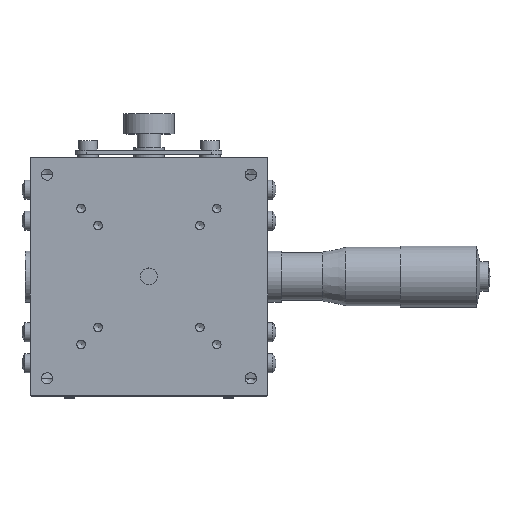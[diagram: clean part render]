
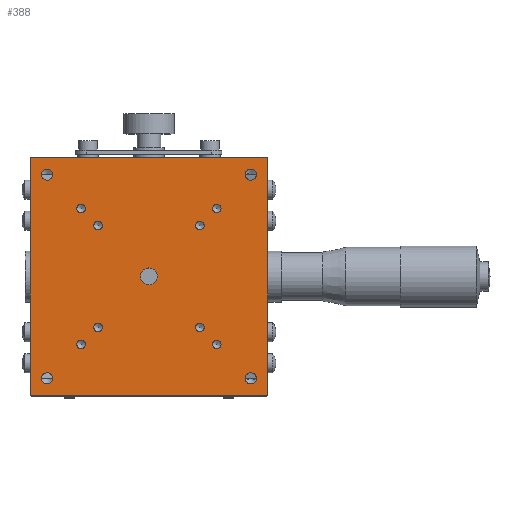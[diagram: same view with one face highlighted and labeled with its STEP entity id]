
A CAD part, top view. The second image highlights one B-rep face of the part: STEP entity #388.
In plain terms, the highlighted planar face has unit normal (0, 0, 1).
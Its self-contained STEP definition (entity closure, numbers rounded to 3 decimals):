
#388 = ADVANCED_FACE( '', ( #1020, #1021, #1022, #1023, #1024, #1025, #1026, #1027, #1028, #1029, #1030, #1031, #1032, #1033 ), #1034, .T. );
#1020 = FACE_BOUND( '', #2037, .T. );
#1021 = FACE_BOUND( '', #2038, .T. );
#1022 = FACE_BOUND( '', #2039, .T. );
#1023 = FACE_BOUND( '', #2040, .T. );
#1024 = FACE_BOUND( '', #2041, .T. );
#1025 = FACE_BOUND( '', #2042, .T. );
#1026 = FACE_BOUND( '', #2043, .T. );
#1027 = FACE_BOUND( '', #2044, .T. );
#1028 = FACE_BOUND( '', #2045, .T. );
#1029 = FACE_BOUND( '', #2046, .T. );
#1030 = FACE_BOUND( '', #2047, .T. );
#1031 = FACE_BOUND( '', #2048, .T. );
#1032 = FACE_BOUND( '', #2049, .T. );
#1033 = FACE_OUTER_BOUND( '', #2050, .T. );
#1034 = PLANE( '', #2051 );
#2037 = EDGE_LOOP( '', ( #3167 ) );
#2038 = EDGE_LOOP( '', ( #3168 ) );
#2039 = EDGE_LOOP( '', ( #3169 ) );
#2040 = EDGE_LOOP( '', ( #3170 ) );
#2041 = EDGE_LOOP( '', ( #3171 ) );
#2042 = EDGE_LOOP( '', ( #3172 ) );
#2043 = EDGE_LOOP( '', ( #3173 ) );
#2044 = EDGE_LOOP( '', ( #3174 ) );
#2045 = EDGE_LOOP( '', ( #3175 ) );
#2046 = EDGE_LOOP( '', ( #3176 ) );
#2047 = EDGE_LOOP( '', ( #3177 ) );
#2048 = EDGE_LOOP( '', ( #3178 ) );
#2049 = EDGE_LOOP( '', ( #3179 ) );
#2050 = EDGE_LOOP( '', ( #3180, #3181, #3182, #3183 ) );
#2051 = AXIS2_PLACEMENT_3D( '', #3184, #3185, #3186 );
#3167 = ORIENTED_EDGE( '', *, *, #5229, .T. );
#3168 = ORIENTED_EDGE( '', *, *, #5230, .T. );
#3169 = ORIENTED_EDGE( '', *, *, #5231, .T. );
#3170 = ORIENTED_EDGE( '', *, *, #5232, .T. );
#3171 = ORIENTED_EDGE( '', *, *, #5233, .T. );
#3172 = ORIENTED_EDGE( '', *, *, #5234, .T. );
#3173 = ORIENTED_EDGE( '', *, *, #5104, .T. );
#3174 = ORIENTED_EDGE( '', *, *, #5235, .T. );
#3175 = ORIENTED_EDGE( '', *, *, #5236, .T. );
#3176 = ORIENTED_EDGE( '', *, *, #5237, .T. );
#3177 = ORIENTED_EDGE( '', *, *, #5238, .T. );
#3178 = ORIENTED_EDGE( '', *, *, #5239, .T. );
#3179 = ORIENTED_EDGE( '', *, *, #5240, .T. );
#3180 = ORIENTED_EDGE( '', *, *, #5241, .F. );
#3181 = ORIENTED_EDGE( '', *, *, #5242, .F. );
#3182 = ORIENTED_EDGE( '', *, *, #5173, .F. );
#3183 = ORIENTED_EDGE( '', *, *, #5243, .F. );
#3184 = CARTESIAN_POINT( '', ( 0., 0., 16.5 ) );
#3185 = DIRECTION( '', ( 0., 0., 1. ) );
#3186 = DIRECTION( '', ( 0., -1., 0. ) );
#5104 = EDGE_CURVE( '', #5936, #5936, #5937, .T. );
#5173 = EDGE_CURVE( '', #6057, #6059, #6060, .T. );
#5229 = EDGE_CURVE( '', #6157, #6157, #6158, .T. );
#5230 = EDGE_CURVE( '', #6159, #6159, #6160, .T. );
#5231 = EDGE_CURVE( '', #6161, #6161, #6162, .T. );
#5232 = EDGE_CURVE( '', #6163, #6163, #6164, .T. );
#5233 = EDGE_CURVE( '', #6165, #6165, #6166, .T. );
#5234 = EDGE_CURVE( '', #6167, #6167, #6168, .T. );
#5235 = EDGE_CURVE( '', #6169, #6169, #6170, .T. );
#5236 = EDGE_CURVE( '', #6171, #6171, #6172, .T. );
#5237 = EDGE_CURVE( '', #6173, #6173, #6174, .T. );
#5238 = EDGE_CURVE( '', #6175, #6175, #6176, .T. );
#5239 = EDGE_CURVE( '', #6177, #6177, #6178, .T. );
#5240 = EDGE_CURVE( '', #6179, #6179, #6180, .T. );
#5241 = EDGE_CURVE( '', #6181, #6182, #6183, .T. );
#5242 = EDGE_CURVE( '', #6059, #6181, #6184, .T. );
#5243 = EDGE_CURVE( '', #6182, #6057, #6185, .T. );
#5936 = VERTEX_POINT( '', #7199 );
#5937 = CIRCLE( '', #7200, 1.25 );
#6057 = VERTEX_POINT( '', #7464 );
#6059 = VERTEX_POINT( '', #7467 );
#6060 = LINE( '', #7468, #7469 );
#6157 = VERTEX_POINT( '', #7619 );
#6158 = CIRCLE( '', #7620, 1.25 );
#6159 = VERTEX_POINT( '', #7621 );
#6160 = CIRCLE( '', #7622, 1.25 );
#6161 = VERTEX_POINT( '', #7623 );
#6162 = CIRCLE( '', #7624, 1.25 );
#6163 = VERTEX_POINT( '', #7625 );
#6164 = CIRCLE( '', #7626, 1.25 );
#6165 = VERTEX_POINT( '', #7627 );
#6166 = CIRCLE( '', #7628, 1.25 );
#6167 = VERTEX_POINT( '', #7629 );
#6168 = CIRCLE( '', #7630, 1.25 );
#6169 = VERTEX_POINT( '', #7631 );
#6170 = CIRCLE( '', #7632, 1.25 );
#6171 = VERTEX_POINT( '', #7633 );
#6172 = CIRCLE( '', #7634, 2.5 );
#6173 = VERTEX_POINT( '', #7635 );
#6174 = CIRCLE( '', #7636, 1.65 );
#6175 = VERTEX_POINT( '', #7637 );
#6176 = CIRCLE( '', #7638, 1.65 );
#6177 = VERTEX_POINT( '', #7639 );
#6178 = CIRCLE( '', #7640, 1.65 );
#6179 = VERTEX_POINT( '', #7641 );
#6180 = CIRCLE( '', #7642, 1.65 );
#6181 = VERTEX_POINT( '', #7643 );
#6182 = VERTEX_POINT( '', #7644 );
#6183 = LINE( '', #7645, #7646 );
#6184 = LINE( '', #7647, #7648 );
#6185 = LINE( '', #7649, #7650 );
#7199 = CARTESIAN_POINT( '', ( 20., -21.25, 16.5 ) );
#7200 = AXIS2_PLACEMENT_3D( '', #9147, #9148, #9149 );
#7464 = CARTESIAN_POINT( '', ( 35., 35., 16.5 ) );
#7467 = CARTESIAN_POINT( '', ( 35., -35., 16.5 ) );
#7468 = CARTESIAN_POINT( '', ( 35., 0., 16.5 ) );
#7469 = VECTOR( '', #9244, 1000. );
#7619 = CARTESIAN_POINT( '', ( 15., -16.25, 16.5 ) );
#7620 = AXIS2_PLACEMENT_3D( '', #9322, #9323, #9324 );
#7621 = CARTESIAN_POINT( '', ( 15., 13.75, 16.5 ) );
#7622 = AXIS2_PLACEMENT_3D( '', #9325, #9326, #9327 );
#7623 = CARTESIAN_POINT( '', ( -15., 13.75, 16.5 ) );
#7624 = AXIS2_PLACEMENT_3D( '', #9328, #9329, #9330 );
#7625 = CARTESIAN_POINT( '', ( -15., -16.25, 16.5 ) );
#7626 = AXIS2_PLACEMENT_3D( '', #9331, #9332, #9333 );
#7627 = CARTESIAN_POINT( '', ( -20., 18.75, 16.5 ) );
#7628 = AXIS2_PLACEMENT_3D( '', #9334, #9335, #9336 );
#7629 = CARTESIAN_POINT( '', ( 20., 18.75, 16.5 ) );
#7630 = AXIS2_PLACEMENT_3D( '', #9337, #9338, #9339 );
#7631 = CARTESIAN_POINT( '', ( -20., -21.25, 16.5 ) );
#7632 = AXIS2_PLACEMENT_3D( '', #9340, #9341, #9342 );
#7633 = CARTESIAN_POINT( '', ( 0., -2.5, 16.5 ) );
#7634 = AXIS2_PLACEMENT_3D( '', #9343, #9344, #9345 );
#7635 = CARTESIAN_POINT( '', ( -30., 28.35, 16.5 ) );
#7636 = AXIS2_PLACEMENT_3D( '', #9346, #9347, #9348 );
#7637 = CARTESIAN_POINT( '', ( 30., 28.35, 16.5 ) );
#7638 = AXIS2_PLACEMENT_3D( '', #9349, #9350, #9351 );
#7639 = CARTESIAN_POINT( '', ( 30., -31.65, 16.5 ) );
#7640 = AXIS2_PLACEMENT_3D( '', #9352, #9353, #9354 );
#7641 = CARTESIAN_POINT( '', ( -30., -31.65, 16.5 ) );
#7642 = AXIS2_PLACEMENT_3D( '', #9355, #9356, #9357 );
#7643 = CARTESIAN_POINT( '', ( -35., -35., 16.5 ) );
#7644 = CARTESIAN_POINT( '', ( -35., 35., 16.5 ) );
#7645 = CARTESIAN_POINT( '', ( -35., 0., 16.5 ) );
#7646 = VECTOR( '', #9358, 1000. );
#7647 = CARTESIAN_POINT( '', ( 0., -35., 16.5 ) );
#7648 = VECTOR( '', #9359, 1000. );
#7649 = CARTESIAN_POINT( '', ( 0., 35., 16.5 ) );
#7650 = VECTOR( '', #9360, 1000. );
#9147 = CARTESIAN_POINT( '', ( 20., -20., 16.5 ) );
#9148 = DIRECTION( '', ( 0., 0., -1. ) );
#9149 = DIRECTION( '', ( 0., -1., 0. ) );
#9244 = DIRECTION( '', ( 0., -1., 0. ) );
#9322 = CARTESIAN_POINT( '', ( 15., -15., 16.5 ) );
#9323 = DIRECTION( '', ( 0., 0., -1. ) );
#9324 = DIRECTION( '', ( 0., -1., 0. ) );
#9325 = CARTESIAN_POINT( '', ( 15., 15., 16.5 ) );
#9326 = DIRECTION( '', ( 0., 0., -1. ) );
#9327 = DIRECTION( '', ( 0., -1., 0. ) );
#9328 = CARTESIAN_POINT( '', ( -15., 15., 16.5 ) );
#9329 = DIRECTION( '', ( 0., 0., -1. ) );
#9330 = DIRECTION( '', ( 0., -1., 0. ) );
#9331 = CARTESIAN_POINT( '', ( -15., -15., 16.5 ) );
#9332 = DIRECTION( '', ( 0., 0., -1. ) );
#9333 = DIRECTION( '', ( 0., -1., 0. ) );
#9334 = CARTESIAN_POINT( '', ( -20., 20., 16.5 ) );
#9335 = DIRECTION( '', ( 0., 0., -1. ) );
#9336 = DIRECTION( '', ( 0., -1., 0. ) );
#9337 = CARTESIAN_POINT( '', ( 20., 20., 16.5 ) );
#9338 = DIRECTION( '', ( 0., 0., -1. ) );
#9339 = DIRECTION( '', ( 0., -1., 0. ) );
#9340 = CARTESIAN_POINT( '', ( -20., -20., 16.5 ) );
#9341 = DIRECTION( '', ( 0., 0., -1. ) );
#9342 = DIRECTION( '', ( 0., -1., 0. ) );
#9343 = CARTESIAN_POINT( '', ( 0., 0., 16.5 ) );
#9344 = DIRECTION( '', ( 0., 0., -1. ) );
#9345 = DIRECTION( '', ( 0., -1., 0. ) );
#9346 = CARTESIAN_POINT( '', ( -30., 30., 16.5 ) );
#9347 = DIRECTION( '', ( 0., 0., -1. ) );
#9348 = DIRECTION( '', ( 0., -1., 0. ) );
#9349 = CARTESIAN_POINT( '', ( 30., 30., 16.5 ) );
#9350 = DIRECTION( '', ( 0., 0., -1. ) );
#9351 = DIRECTION( '', ( 0., -1., 0. ) );
#9352 = CARTESIAN_POINT( '', ( 30., -30., 16.5 ) );
#9353 = DIRECTION( '', ( 0., 0., -1. ) );
#9354 = DIRECTION( '', ( 0., -1., 0. ) );
#9355 = CARTESIAN_POINT( '', ( -30., -30., 16.5 ) );
#9356 = DIRECTION( '', ( 0., 0., -1. ) );
#9357 = DIRECTION( '', ( 0., -1., 0. ) );
#9358 = DIRECTION( '', ( 0., 1., 0. ) );
#9359 = DIRECTION( '', ( -1., 0., 0. ) );
#9360 = DIRECTION( '', ( 1., 0., 0. ) );
